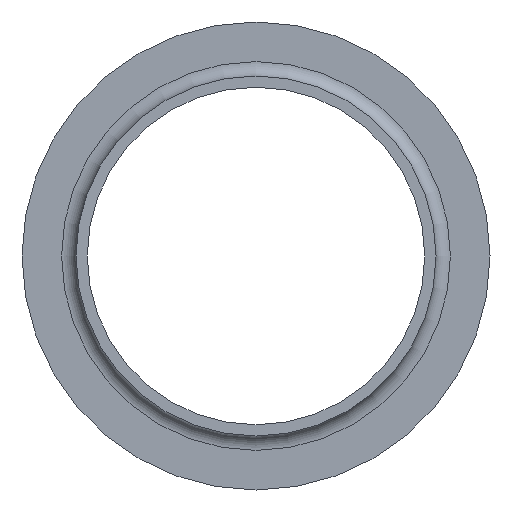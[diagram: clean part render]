
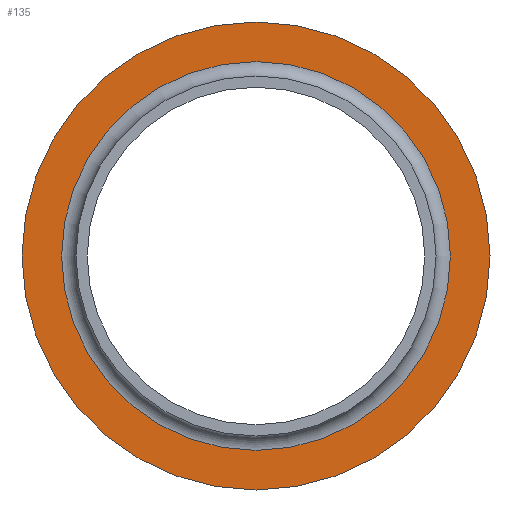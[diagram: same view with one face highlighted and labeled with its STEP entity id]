
A CAD part, left-side view. The second image highlights one B-rep face of the part: STEP entity #135.
In plain terms, the highlighted planar face has unit normal (-1, 0, 0).
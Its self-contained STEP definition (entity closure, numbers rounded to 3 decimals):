
#101=CARTESIAN_POINT('',(62.,135.0,0.0));
#102=VERTEX_POINT('',#101);
#103=CARTESIAN_POINT('',(62.,0.,0.0));
#104=DIRECTION('',(1.0,0.0,0.0));
#105=DIRECTION('',(0.0,1.0,0.0));
#106=AXIS2_PLACEMENT_3D('',#103,#104,#105);
#107=CIRCLE('',#106,135.);
#108=EDGE_CURVE('',#102,#102,#107,.T.);
#116=CARTESIAN_POINT('',(62.,148.75,0.0));
#117=DIRECTION('',(-1.0,0.0,0.0));
#118=DIRECTION('',(0.0,0.0,1.0));
#119=AXIS2_PLACEMENT_3D('',#116,#117,#118);
#120=PLANE('',#119);
#121=CARTESIAN_POINT('',(62.,162.5,0.0));
#122=VERTEX_POINT('',#121);
#123=CARTESIAN_POINT('',(62.,0.,0.0));
#124=DIRECTION('',(1.0,0.0,0.0));
#125=DIRECTION('',(0.0,1.0,0.0));
#126=AXIS2_PLACEMENT_3D('',#123,#124,#125);
#127=CIRCLE('',#126,162.5);
#128=EDGE_CURVE('',#122,#122,#127,.T.);
#129=ORIENTED_EDGE('',*,*,#128,.F.);
#130=EDGE_LOOP('',(#129));
#131=FACE_OUTER_BOUND('',#130,.T.);
#132=ORIENTED_EDGE('',*,*,#108,.T.);
#133=EDGE_LOOP('',(#132));
#134=FACE_BOUND('',#133,.T.);
#135=ADVANCED_FACE('',(#131,#134),#120,.T.);
